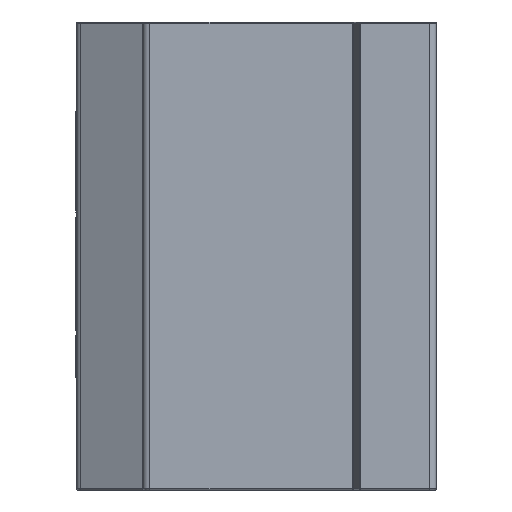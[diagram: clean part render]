
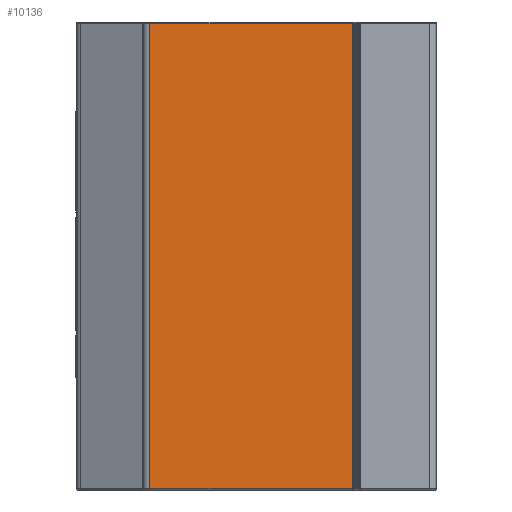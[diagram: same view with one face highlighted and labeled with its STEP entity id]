
A CAD part, left-side view. The second image highlights one B-rep face of the part: STEP entity #10136.
In plain terms, the highlighted planar face has unit normal (-1, 0, 0).
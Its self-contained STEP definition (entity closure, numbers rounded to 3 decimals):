
#208 = LINE ( 'NONE', #7153, #9106 ) ;
#228 = CARTESIAN_POINT ( 'NONE',  ( -36., -14.203, 0.15 ) ) ;
#677 = DIRECTION ( 'NONE',  ( 0., 0., -1. ) ) ;
#870 = AXIS2_PLACEMENT_3D ( 'NONE', #11720, #9390, #13992 ) ;
#1427 = VECTOR ( 'NONE', #677, 1000. ) ;
#2589 = CARTESIAN_POINT ( 'NONE',  ( -36., -14.203, 66.85 ) ) ;
#2806 = DIRECTION ( 'NONE',  ( 0., 1., 0. ) ) ;
#3308 = FACE_OUTER_BOUND ( 'NONE', #5038, .T. ) ;
#4087 = VECTOR ( 'NONE', #2806, 1000. ) ;
#4951 = DIRECTION ( 'NONE',  ( 0., -1., 0. ) ) ;
#5038 = EDGE_LOOP ( 'NONE', ( #9461, #9687, #7709, #6038 ) ) ;
#5675 = VERTEX_POINT ( 'NONE', #10631 ) ;
#5684 = EDGE_CURVE ( 'NONE', #5675, #11146, #12731, .T. ) ;
#5960 = DIRECTION ( 'NONE',  ( 0., 0., 1. ) ) ;
#6038 = ORIENTED_EDGE ( 'NONE', *, *, #10156, .T. ) ;
#6977 = VECTOR ( 'NONE', #4951, 1000. ) ;
#7153 = CARTESIAN_POINT ( 'NONE',  ( -36., -14.203, 67. ) ) ;
#7567 = CARTESIAN_POINT ( 'NONE',  ( -36., 14.8, 67. ) ) ;
#7582 = LINE ( 'NONE', #7567, #1427 ) ;
#7707 = VERTEX_POINT ( 'NONE', #2589 ) ;
#7709 = ORIENTED_EDGE ( 'NONE', *, *, #5684, .T. ) ;
#9106 = VECTOR ( 'NONE', #5960, 1000. ) ;
#9390 = DIRECTION ( 'NONE',  ( 1., 0., 0. ) ) ;
#9461 = ORIENTED_EDGE ( 'NONE', *, *, #11677, .T. ) ;
#9687 = ORIENTED_EDGE ( 'NONE', *, *, #14038, .T. ) ;
#9901 = LINE ( 'NONE', #14291, #4087 ) ;
#10136 = ADVANCED_FACE ( 'NONE', ( #3308 ), #12874, .F. ) ;
#10156 = EDGE_CURVE ( 'NONE', #11146, #7707, #208, .T. ) ;
#10631 = CARTESIAN_POINT ( 'NONE',  ( -36., 14.8, 0.15 ) ) ;
#11146 = VERTEX_POINT ( 'NONE', #228 ) ;
#11649 = VERTEX_POINT ( 'NONE', #11870 ) ;
#11677 = EDGE_CURVE ( 'NONE', #7707, #11649, #9901, .T. ) ;
#11720 = CARTESIAN_POINT ( 'NONE',  ( -36., -14.3, 67. ) ) ;
#11852 = CARTESIAN_POINT ( 'NONE',  ( -36., -14.3, 0.15 ) ) ;
#11870 = CARTESIAN_POINT ( 'NONE',  ( -36., 14.8, 66.85 ) ) ;
#12731 = LINE ( 'NONE', #11852, #6977 ) ;
#12874 = PLANE ( 'NONE',  #870 ) ;
#13992 = DIRECTION ( 'NONE',  ( 0., 0., -1. ) ) ;
#14038 = EDGE_CURVE ( 'NONE', #11649, #5675, #7582, .T. ) ;
#14291 = CARTESIAN_POINT ( 'NONE',  ( -36., -14.3, 66.85 ) ) ;
